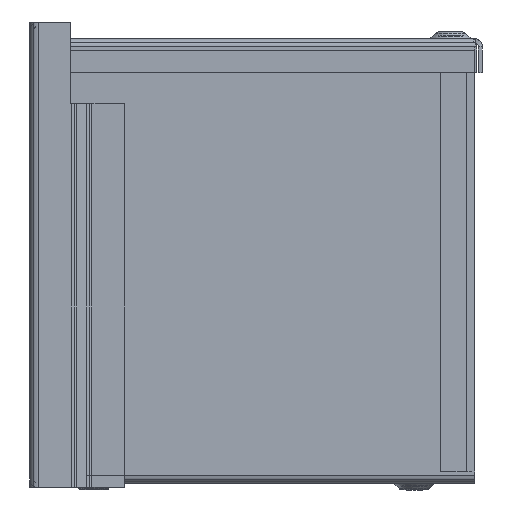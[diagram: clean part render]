
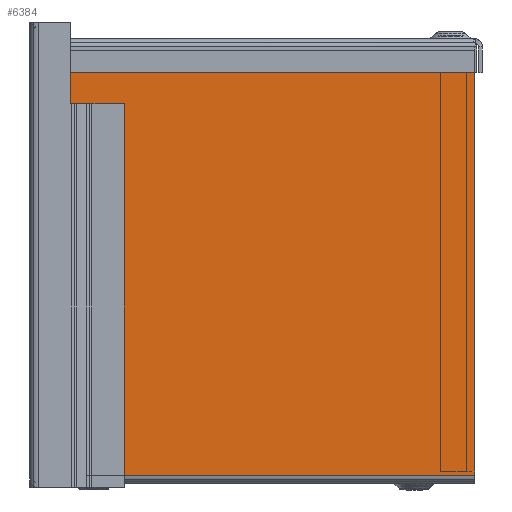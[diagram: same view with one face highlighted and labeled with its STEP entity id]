
A CAD part, left-side view. The second image highlights one B-rep face of the part: STEP entity #6384.
In plain terms, the highlighted planar face has unit normal (-1, 0, 0).
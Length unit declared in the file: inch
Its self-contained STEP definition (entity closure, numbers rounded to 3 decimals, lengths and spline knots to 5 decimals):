
#1693 = CARTESIAN_POINT ( 'NONE',  ( -18., 0.152, 4. ) ) ;
#1694 = CARTESIAN_POINT ( 'NONE',  ( -18., 7.848, 4. ) ) ;
#1707 = DIRECTION ( 'NONE',  ( 0., -1., 0. ) ) ;
#1708 = VECTOR ( 'NONE', #1707, 39.37008 ) ;
#1709 = CARTESIAN_POINT ( 'NONE',  ( -18., 8., 4. ) ) ;
#1710 = LINE ( 'NONE', #1709, #1708 ) ;
#1748 = DIRECTION ( 'NONE',  ( 0., 1., 0. ) ) ;
#1749 = DIRECTION ( 'NONE',  ( 1., 0., 0. ) ) ;
#1750 = CARTESIAN_POINT ( 'NONE',  ( -18., 8., -4. ) ) ;
#1752 = AXIS2_PLACEMENT_3D ( 'NONE', #1750, #1749, #1748 ) ;
#1753 = PLANE ( 'NONE',  #1752 ) ;
#1754 = FACE_OUTER_BOUND ( 'NONE', #6385, .T. ) ;
#1765 = DIRECTION ( 'NONE',  ( 0., 0., -1. ) ) ;
#1766 = VECTOR ( 'NONE', #1765, 39.37008 ) ;
#1767 = CARTESIAN_POINT ( 'NONE',  ( -18., 7.848, 4. ) ) ;
#1768 = LINE ( 'NONE', #1767, #1766 ) ;
#1775 = DIRECTION ( 'NONE',  ( 0., 1., 0. ) ) ;
#1776 = VECTOR ( 'NONE', #1775, 39.37008 ) ;
#1777 = CARTESIAN_POINT ( 'NONE',  ( -18., 0.072, -4. ) ) ;
#1778 = LINE ( 'NONE', #1777, #1776 ) ;
#1779 = DIRECTION ( 'NONE',  ( 0., 0., -1. ) ) ;
#1780 = VECTOR ( 'NONE', #1779, 39.37008 ) ;
#1781 = CARTESIAN_POINT ( 'NONE',  ( -18., 0.152, -4. ) ) ;
#1782 = LINE ( 'NONE', #1781, #1780 ) ;
#1783 = CARTESIAN_POINT ( 'NONE',  ( -18., 7.848, -4. ) ) ;
#1785 = CARTESIAN_POINT ( 'NONE',  ( -18., 0.152, -4. ) ) ;
#6356 = ORIENTED_EDGE ( 'NONE', *, *, #6371, .F. ) ;
#6371 = EDGE_CURVE ( 'NONE', #6376, #6379, #1710, .T. ) ;
#6376 = VERTEX_POINT ( 'NONE', #1694 ) ;
#6379 = VERTEX_POINT ( 'NONE', #1693 ) ;
#6384 = ADVANCED_FACE ( 'NONE', ( #1754 ), #1753, .F. ) ;
#6385 = EDGE_LOOP ( 'NONE', ( #6388, #6401, #6406, #6356 ) ) ;
#6388 = ORIENTED_EDGE ( 'NONE', *, *, #6412, .T. ) ;
#6399 = VERTEX_POINT ( 'NONE', #1785 ) ;
#6400 = VERTEX_POINT ( 'NONE', #1783 ) ;
#6401 = ORIENTED_EDGE ( 'NONE', *, *, #6403, .F. ) ;
#6402 = EDGE_CURVE ( 'NONE', #6379, #6399, #1782, .T. ) ;
#6403 = EDGE_CURVE ( 'NONE', #6399, #6400, #1778, .T. ) ;
#6406 = ORIENTED_EDGE ( 'NONE', *, *, #6402, .F. ) ;
#6412 = EDGE_CURVE ( 'NONE', #6376, #6400, #1768, .T. ) ;
